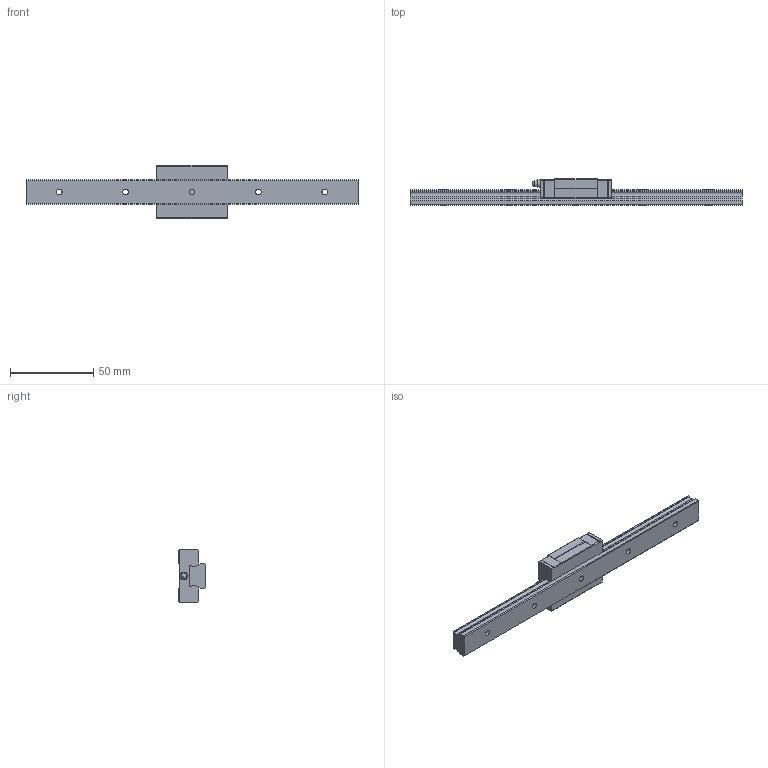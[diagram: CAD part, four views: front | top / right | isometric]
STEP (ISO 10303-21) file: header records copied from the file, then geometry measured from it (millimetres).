
FILE_DESCRIPTION(/* description */ ('STEP AP203'),/* implementation_level */ '2;1');
FILE_NAME(/* name */ 'RSX15MUU-200LM_G20_0_PB107_78-5_0_0_0_1',/* time_stamp */ '2024-05-21T10:25:48+02:00',/* author */ ('License CC BY-ND 4.0'),/* organization */ ('CADENAS'),/* preprocessor_version */ 'ST-DEVELOPER v19.3',/* originating_system */ 'PARTsolutions',/* authorisation */ ' ');
FILE_SCHEMA (('CONFIG_CONTROL_DESIGN'));
Length unit declared in the file: millimetre
Products named in the file (4): RSX15MUU-200LM_G20_0_PB107_78-5_0_0_0_1; RSX15M20020 Track; RSX15MUUPB1071 Slider; RSX PB107 grease nipple
Assembly tree (3 placements, depth 2):
  RSX15MUU-200LM_G20_0_PB107_78-5_0_0_0_1
    RSX15M20020 Track
    RSX15MUUPB1071 Slider
    RSX PB107 grease nipple
Bounding box: 200 x 16 x 32 mm (x, y, z)
Volume: 36976.1 mm3; surface area: 15668.5 mm2
Topology: 3 solids, 3 shells, 142 faces, 376 edges, 248 vertices
Faces by surface type: plane 96, cylinder 37, cone 8, sphere 1
Full cylindrical faces by diameter (mm): 2.459 x4, 3 x3, 3.5 x6, 4.5 x1, 6 x5
Entity records: 4281 total; most frequent: CARTESIAN_POINT 726, DIRECTION 708, ORIENTED_EDGE 676, EDGE_CURVE 338, LINE 260, VECTOR 260, VERTEX_POINT 242, AXIS2_PLACEMENT_3D 224
